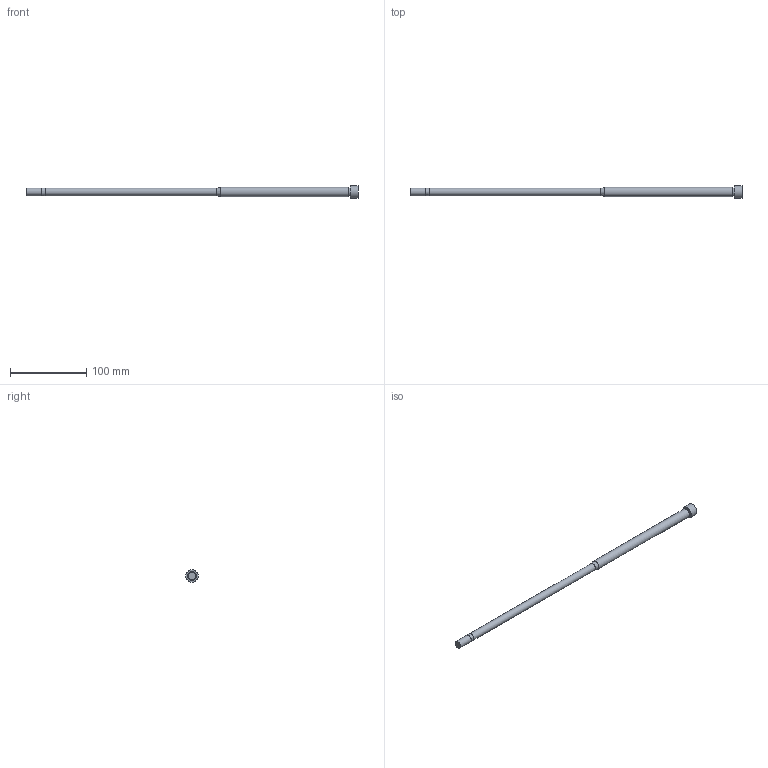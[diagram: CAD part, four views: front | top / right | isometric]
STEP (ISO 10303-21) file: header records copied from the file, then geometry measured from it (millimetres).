
FILE_DESCRIPTION(('STEP AP203'), '1');
FILE_NAME('32 Òîëêàòåëü _ ÏÔÍ 295 10632', '', ('UNSPECIFIED'), ('UNSPECIFIED'), 'C3D Converter', 'C3D Toolkit', '');
FILE_SCHEMA(('CONFIG_CONTROL_DESIGN'));
Length unit declared in the file: millimetre
Products named in the file (1): ПФН 295 106/32
Bounding box: 435.6 x 16 x 16 mm (x, y, z)
Volume: 40659.5 mm3; surface area: 15199.2 mm2
Topology: 1 solids, 1 shells, 11 faces, 17 edges, 10 vertices
Faces by surface type: cylinder 5, plane 4, cone 2
Full cylindrical faces by diameter (mm): 9.8 x1, 10 x1, 11.5 x1, 12 x1, 16 x1
Entity records: 337 total; most frequent: DIRECTION 44, CARTESIAN_POINT 32, AXIS2_PLACEMENT_3D 22, EDGE_LOOP 20, ORIENTED_EDGE 20, FACE_OUTER_BOUND 14, COLOUR_RGB 12, FILL_AREA_STYLE_COLOUR 12
